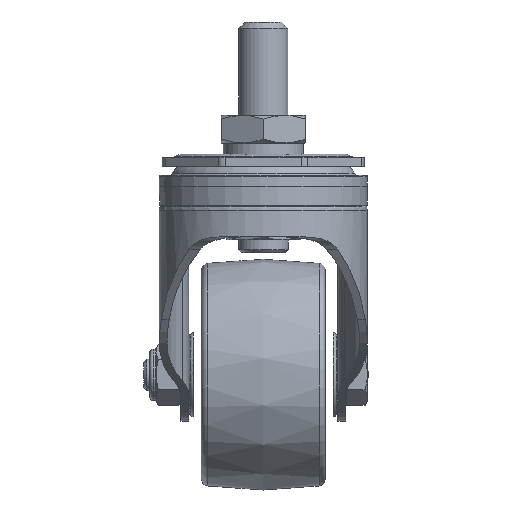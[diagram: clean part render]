
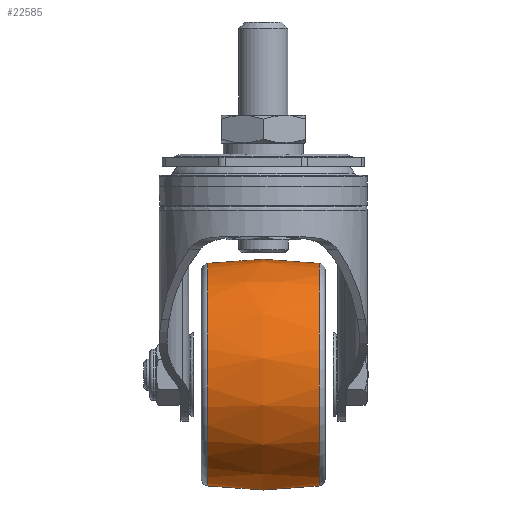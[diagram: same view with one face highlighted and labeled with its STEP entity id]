
A CAD part, left-side view. The second image highlights one B-rep face of the part: STEP entity #22585.
In plain terms, the highlighted free-form (B-spline) face has degree [2, 2] with [3, 9] control points.
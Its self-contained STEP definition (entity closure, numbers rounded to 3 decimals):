
#27=(
BOUNDED_SURFACE()
B_SPLINE_SURFACE(2,2,((#33544,#33545,#33546,#33547,#33548,#33549,#33550,
#33551,#33552),(#33553,#33554,#33555,#33556,#33557,#33558,#33559,#33560,
#33561),(#33562,#33563,#33564,#33565,#33566,#33567,#33568,#33569,#33570)),
 .UNSPECIFIED.,.F.,.T.,.F.)
B_SPLINE_SURFACE_WITH_KNOTS((3,3),(3,2,2,2,3),(-0.18,0.18),
(-3.142,-1.571,0.,1.571,3.142),
 .UNSPECIFIED.)
GEOMETRIC_REPRESENTATION_ITEM()
RATIONAL_B_SPLINE_SURFACE(((1.,0.707,1.,0.707,1.,
0.707,1.,0.707,1.),(0.984,0.696,
0.984,0.696,0.984,0.696,
0.984,0.696,0.984),(1.,0.707,
1.,0.707,1.,0.707,1.,0.707,1.)))
REPRESENTATION_ITEM('')
SURFACE()
);
#6044=FACE_OUTER_BOUND('',#7325,.T.);
#7325=EDGE_LOOP('',(#17269,#17270,#17271,#17272));
#8341=CIRCLE('',#23789,35.876);
#8342=CIRCLE('',#23790,100.);
#8343=CIRCLE('',#23791,35.876);
#10416=VERTEX_POINT('',#33541);
#10417=VERTEX_POINT('',#33571);
#13071=EDGE_CURVE('',#10416,#10416,#8341,.T.);
#13072=EDGE_CURVE('',#10416,#10417,#8342,.T.);
#13073=EDGE_CURVE('',#10417,#10417,#8343,.T.);
#17269=ORIENTED_EDGE('',*,*,#13071,.F.);
#17270=ORIENTED_EDGE('',*,*,#13072,.T.);
#17271=ORIENTED_EDGE('',*,*,#13073,.T.);
#17272=ORIENTED_EDGE('',*,*,#13072,.F.);
#22585=ADVANCED_FACE('',(#6044),#27,.F.);
#23789=AXIS2_PLACEMENT_3D('',#33543,#26085,#26086);
#23790=AXIS2_PLACEMENT_3D('',#33572,#26087,#26088);
#23791=AXIS2_PLACEMENT_3D('',#33573,#26089,#26090);
#26085=DIRECTION('center_axis',(0.,-1.,0.));
#26086=DIRECTION('ref_axis',(0.6,0.,-0.8));
#26087=DIRECTION('center_axis',(-0.8,0.,
-0.6));
#26088=DIRECTION('ref_axis',(-0.6,0.,0.8));
#26089=DIRECTION('center_axis',(0.,-1.,0.));
#26090=DIRECTION('ref_axis',(0.6,0.,-0.8));
#33541=CARTESIAN_POINT('',(18.457,-17.949,-42.612));
#33543=CARTESIAN_POINT('Origin',(40.,-17.949,-71.3));
#33544=CARTESIAN_POINT('Ctrl Pts',(18.457,17.949,-42.612));
#33545=CARTESIAN_POINT('Ctrl Pts',(-10.231,17.949,-64.156));
#33546=CARTESIAN_POINT('Ctrl Pts',(11.312,17.949,-92.843));
#33547=CARTESIAN_POINT('Ctrl Pts',(32.856,17.949,-121.531));
#33548=CARTESIAN_POINT('Ctrl Pts',(61.543,17.949,-99.988));
#33549=CARTESIAN_POINT('Ctrl Pts',(90.231,17.949,-78.444));
#33550=CARTESIAN_POINT('Ctrl Pts',(68.688,17.949,-49.757));
#33551=CARTESIAN_POINT('Ctrl Pts',(47.144,17.949,-21.069));
#33552=CARTESIAN_POINT('Ctrl Pts',(18.457,17.949,-42.612));
#33553=CARTESIAN_POINT('Ctrl Pts',(16.49,0.,
-39.994));
#33554=CARTESIAN_POINT('Ctrl Pts',(-14.816,0.,
-63.504));
#33555=CARTESIAN_POINT('Ctrl Pts',(8.694,0.,
-94.81));
#33556=CARTESIAN_POINT('Ctrl Pts',(32.204,0.,
-126.116));
#33557=CARTESIAN_POINT('Ctrl Pts',(63.51,0.,
-102.606));
#33558=CARTESIAN_POINT('Ctrl Pts',(94.816,0.,
-79.096));
#33559=CARTESIAN_POINT('Ctrl Pts',(71.306,0.,
-47.79));
#33560=CARTESIAN_POINT('Ctrl Pts',(47.796,0.,
-16.484));
#33561=CARTESIAN_POINT('Ctrl Pts',(16.49,0.,
-39.994));
#33562=CARTESIAN_POINT('Ctrl Pts',(18.457,-17.949,-42.612));
#33563=CARTESIAN_POINT('Ctrl Pts',(-10.231,-17.949,-64.156));
#33564=CARTESIAN_POINT('Ctrl Pts',(11.312,-17.949,-92.843));
#33565=CARTESIAN_POINT('Ctrl Pts',(32.856,-17.949,-121.531));
#33566=CARTESIAN_POINT('Ctrl Pts',(61.543,-17.949,-99.988));
#33567=CARTESIAN_POINT('Ctrl Pts',(90.231,-17.949,-78.444));
#33568=CARTESIAN_POINT('Ctrl Pts',(68.688,-17.949,-49.757));
#33569=CARTESIAN_POINT('Ctrl Pts',(47.144,-17.949,-21.069));
#33570=CARTESIAN_POINT('Ctrl Pts',(18.457,-17.949,-42.612));
#33571=CARTESIAN_POINT('',(18.457,17.949,-42.612));
#33572=CARTESIAN_POINT('Origin',(77.531,0.,
-121.277));
#33573=CARTESIAN_POINT('Origin',(40.,17.949,-71.3));
